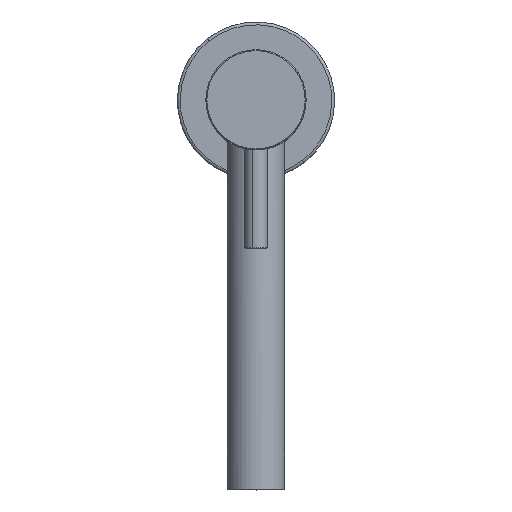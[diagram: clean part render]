
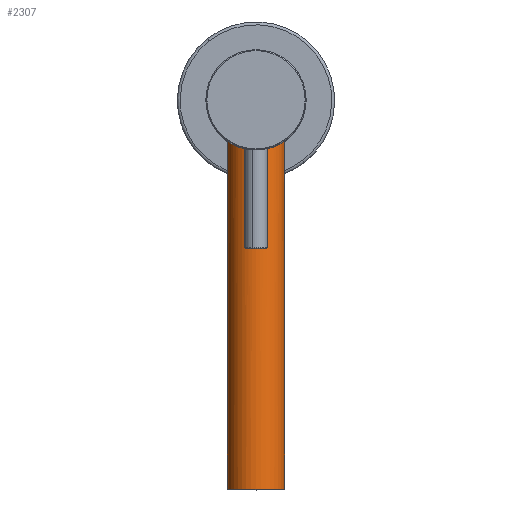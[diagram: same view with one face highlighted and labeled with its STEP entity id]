
A CAD part, top view. The second image highlights one B-rep face of the part: STEP entity #2307.
In plain terms, the highlighted cylindrical face has radius 10 mm (diameter 20 mm), a partial arc.
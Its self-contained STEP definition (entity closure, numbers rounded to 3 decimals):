
#1 = CARTESIAN_POINT ( 'NONE',  ( 7.308, -6.834, 1.542 ) ) ;
#106 = CARTESIAN_POINT ( 'NONE',  ( -10., 0., 0. ) ) ;
#683 = AXIS2_PLACEMENT_3D ( 'NONE', #5756, #19035, #16305 ) ;
#1121 = CARTESIAN_POINT ( 'NONE',  ( -8.659, -5.044, 0.852 ) ) ;
#1242 = CARTESIAN_POINT ( 'NONE',  ( 7.929, -6.101, 1.241 ) ) ;
#1609 = EDGE_CURVE ( 'NONE', #11831, #16022, #12518, .T. ) ;
#1698 = CARTESIAN_POINT ( 'NONE',  ( 10., 0., 0. ) ) ;
#2307 = ADVANCED_FACE ( 'NONE', ( #5669 ), #7564, .T. ) ;
#2447 = CARTESIAN_POINT ( 'NONE',  ( -2.644, -9.65, 2.941 ) ) ;
#2514 = CARTESIAN_POINT ( 'NONE',  ( -10., -0.678, 0. ) ) ;
#2638 = CARTESIAN_POINT ( 'NONE',  ( -10., 0., 0. ) ) ;
#2964 = CARTESIAN_POINT ( 'NONE',  ( 6.622, -7.501, 1.84 ) ) ;
#3245 = DIRECTION ( 'NONE',  ( -1., 0., 0. ) ) ;
#3913 = CARTESIAN_POINT ( 'NONE',  ( 10., 0., 122. ) ) ;
#4067 = CARTESIAN_POINT ( 'NONE',  ( -0.678, -10., 3.139 ) ) ;
#4139 = CARTESIAN_POINT ( 'NONE',  ( -3.59, -9.339, 2.769 ) ) ;
#4659 = CARTESIAN_POINT ( 'NONE',  ( 9.733, -2.318, 0.182 ) ) ;
#4793 = LINE ( 'NONE', #3913, #17274 ) ;
#5398 = CARTESIAN_POINT ( 'NONE',  ( -6.618, -7.504, 1.841 ) ) ;
#5595 = CARTESIAN_POINT ( 'NONE',  ( -7.937, -6.118, 1.241 ) ) ;
#5669 = FACE_OUTER_BOUND ( 'NONE', #13451, .T. ) ;
#5756 = CARTESIAN_POINT ( 'NONE',  ( 0., 0., 121.7 ) ) ;
#5866 = ORIENTED_EDGE ( 'NONE', *, *, #13390, .T. ) ;
#6246 = CARTESIAN_POINT ( 'NONE',  ( 8.66, -5.042, 0.851 ) ) ;
#6464 = ORIENTED_EDGE ( 'NONE', *, *, #1609, .T. ) ;
#6531 = CARTESIAN_POINT ( 'NONE',  ( 10., 0., 0. ) ) ;
#7048 = CARTESIAN_POINT ( 'NONE',  ( -6.122, -7.914, 2.035 ) ) ;
#7110 = CARTESIAN_POINT ( 'NONE',  ( -7.53, -6.611, 1.443 ) ) ;
#7285 = AXIS2_PLACEMENT_3D ( 'NONE', #10700, #13643, #3245 ) ;
#7441 = CARTESIAN_POINT ( 'NONE',  ( 3.274, -9.455, 2.833 ) ) ;
#7564 = CYLINDRICAL_SURFACE ( 'NONE', #7285, 10. ) ;
#7743 = CARTESIAN_POINT ( 'NONE',  ( 8.965, -4.478, 0.671 ) ) ;
#8110 = VERTEX_POINT ( 'NONE', #18169 ) ;
#8134 = CARTESIAN_POINT ( 'NONE',  ( -10., 0., 121.7 ) ) ;
#8571 = CARTESIAN_POINT ( 'NONE',  ( -6.855, -7.288, 1.742 ) ) ;
#8642 = CARTESIAN_POINT ( 'NONE',  ( -1.342, -9.932, 3.099 ) ) ;
#8702 = CARTESIAN_POINT ( 'NONE',  ( -2.32, -9.733, 2.987 ) ) ;
#8728 = EDGE_CURVE ( 'NONE', #8110, #9776, #4793, .T. ) ;
#8948 = CARTESIAN_POINT ( 'NONE',  ( 4.491, -8.959, 2.564 ) ) ;
#9020 = CARTESIAN_POINT ( 'NONE',  ( 2.316, -9.734, 2.988 ) ) ;
#9061 = CARTESIAN_POINT ( 'NONE',  ( 0., -10., 3.139 ) ) ;
#9206 = CARTESIAN_POINT ( 'NONE',  ( 10., -0.677, 0. ) ) ;
#9278 = CARTESIAN_POINT ( 'NONE',  ( 9.342, -3.582, 0.437 ) ) ;
#9776 = VERTEX_POINT ( 'NONE', #6531 ) ;
#9996 = VERTEX_POINT ( 'NONE', #9061 ) ;
#10104 = CARTESIAN_POINT ( 'NONE',  ( -5.059, -8.65, 2.401 ) ) ;
#10163 = CARTESIAN_POINT ( 'NONE',  ( -9.932, -1.34, 0.048 ) ) ;
#10286 = CARTESIAN_POINT ( 'NONE',  ( 7.522, -6.597, 1.441 ) ) ;
#10489 = CARTESIAN_POINT ( 'NONE',  ( 5.061, -8.649, 2.401 ) ) ;
#10700 = CARTESIAN_POINT ( 'NONE',  ( 0., 0., 122. ) ) ;
#11463 = CARTESIAN_POINT ( 'NONE',  ( -9.47, -3.277, 0.358 ) ) ;
#11571 = VECTOR ( 'NONE', #11718, 1000. ) ;
#11647 = CARTESIAN_POINT ( 'NONE',  ( -5.861, -8.109, 2.13 ) ) ;
#11718 = DIRECTION ( 'NONE',  ( 0., 0., -1. ) ) ;
#11752 = CARTESIAN_POINT ( 'NONE',  ( 8.123, -5.841, 1.141 ) ) ;
#11831 = VERTEX_POINT ( 'NONE', #8134 ) ;
#11959 = CARTESIAN_POINT ( 'NONE',  ( 6.127, -7.909, 2.033 ) ) ;
#12019 = CARTESIAN_POINT ( 'NONE',  ( 0.677, -10., 3.139 ) ) ;
#12518 = LINE ( 'NONE', #19424, #11571 ) ;
#12724 = DIRECTION ( 'NONE',  ( 0., 0., -1. ) ) ;
#12740 = EDGE_CURVE ( 'NONE', #9996, #9776, #19353, .T. ) ;
#13164 = CARTESIAN_POINT ( 'NONE',  ( -4.492, -8.958, 2.564 ) ) ;
#13390 = EDGE_CURVE ( 'NONE', #16022, #9996, #16937, .T. ) ;
#13451 = EDGE_LOOP ( 'NONE', ( #15354, #18155, #6464, #5866, #17058 ) ) ;
#13550 = CARTESIAN_POINT ( 'NONE',  ( 1.34, -9.932, 3.099 ) ) ;
#13643 = DIRECTION ( 'NONE',  ( 0., 0., -1. ) ) ;
#13665 = CARTESIAN_POINT ( 'NONE',  ( 9.932, -1.342, 0.048 ) ) ;
#14478 = CARTESIAN_POINT ( 'NONE',  ( -9.669, -2.637, 0.226 ) ) ;
#15071 = CARTESIAN_POINT ( 'NONE',  ( 5.868, -8.104, 2.128 ) ) ;
#15139 = CARTESIAN_POINT ( 'NONE',  ( 9.651, -2.64, 0.237 ) ) ;
#15354 = ORIENTED_EDGE ( 'NONE', *, *, #8728, .F. ) ;
#15951 = CARTESIAN_POINT ( 'NONE',  ( -3.281, -9.452, 2.831 ) ) ;
#16022 = VERTEX_POINT ( 'NONE', #106 ) ;
#16160 = CARTESIAN_POINT ( 'NONE',  ( -8.965, -4.477, 0.671 ) ) ;
#16305 = DIRECTION ( 'NONE',  ( 1., 0., 0. ) ) ;
#16661 = CARTESIAN_POINT ( 'NONE',  ( 9.455, -3.274, 0.365 ) ) ;
#16937 = B_SPLINE_CURVE_WITH_KNOTS ( 'NONE', 3,
 ( #2638, #2514, #10163, #14478, #11463, #16160, #1121, #5595, #7110, #8571, #5398, #7048, #11647, #10104, #13164, #4139, #15951, #2447, #8702, #8642, #4067, #17702 ),
 .UNSPECIFIED., .F., .F.,
 ( 4, 2, 2, 2, 2, 2, 2, 2, 2, 2, 4 ),
 ( 0.016, 0.018, 0.02, 0.022, 0.024, 0.025, 0.026, 0.028, 0.029, 0.03, 0.032 ),
 .UNSPECIFIED. ) ;
#17058 = ORIENTED_EDGE ( 'NONE', *, *, #12740, .T. ) ;
#17274 = VECTOR ( 'NONE', #12724, 1000. ) ;
#17702 = CARTESIAN_POINT ( 'NONE',  ( 0., -10., 3.139 ) ) ;
#17952 = CARTESIAN_POINT ( 'NONE',  ( 3.586, -9.341, 2.77 ) ) ;
#18027 = CARTESIAN_POINT ( 'NONE',  ( 2.637, -9.652, 2.942 ) ) ;
#18088 = CARTESIAN_POINT ( 'NONE',  ( 0., -10., 3.139 ) ) ;
#18151 = EDGE_CURVE ( 'NONE', #8110, #11831, #18553, .T. ) ;
#18155 = ORIENTED_EDGE ( 'NONE', *, *, #18151, .T. ) ;
#18169 = CARTESIAN_POINT ( 'NONE',  ( 10., 0., 121.7 ) ) ;
#18553 = CIRCLE ( 'NONE', #683, 10. ) ;
#19035 = DIRECTION ( 'NONE',  ( 0., 0., -1. ) ) ;
#19252 = CARTESIAN_POINT ( 'NONE',  ( 6.857, -7.285, 1.741 ) ) ;
#19353 = B_SPLINE_CURVE_WITH_KNOTS ( 'NONE', 3,
 ( #18088, #12019, #13550, #9020, #18027, #7441, #17952, #8948, #10489, #15071, #11959, #2964, #19252, #1, #10286, #1242, #11752, #6246, #7743, #9278, #16661, #15139, #4659, #13665, #9206, #1698 ),
 .UNSPECIFIED., .F., .F.,
 ( 4, 2, 2, 2, 2, 2, 2, 2, 2, 2, 2, 2, 4 ),
 ( 0.032, 0.034, 0.035, 0.036, 0.038, 0.039, 0.04, 0.041, 0.042, 0.044, 0.045, 0.046, 0.048 ),
 .UNSPECIFIED. ) ;
#19424 = CARTESIAN_POINT ( 'NONE',  ( -10., 0., 122. ) ) ;
